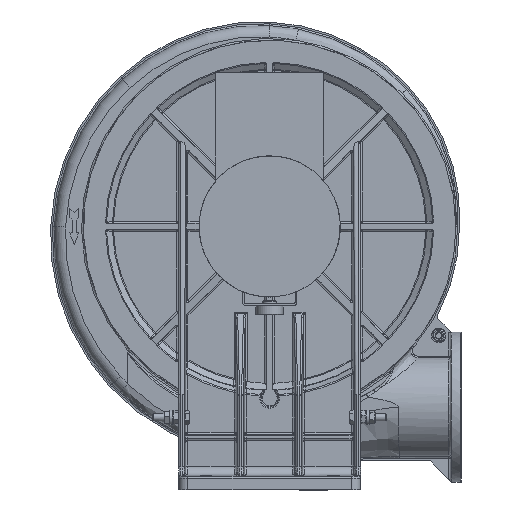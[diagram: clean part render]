
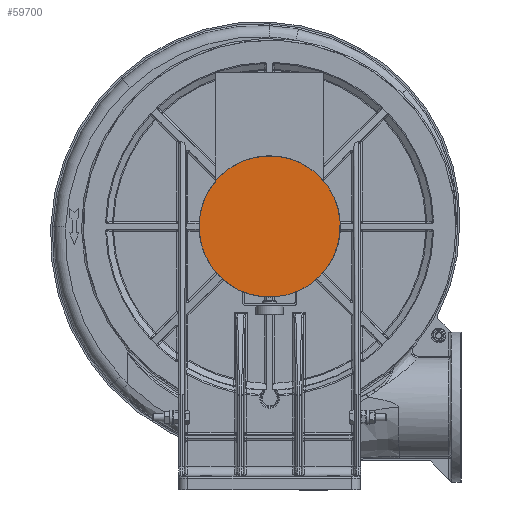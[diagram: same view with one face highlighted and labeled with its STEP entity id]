
A CAD part, left-side view. The second image highlights one B-rep face of the part: STEP entity #59700.
In plain terms, the highlighted planar face has unit normal (-1, 0, 0).
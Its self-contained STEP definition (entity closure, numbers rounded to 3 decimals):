
#1454=PLANE('',#62529);
#3147=CIRCLE('',#61567,77.7);
#8477=FACE_OUTER_BOUND('',#12017,.T.);
#12017=EDGE_LOOP('',(#49388));
#27566=VERTEX_POINT('',#92993);
#33516=EDGE_CURVE('',#27566,#27566,#3147,.T.);
#49388=ORIENTED_EDGE('',*,*,#33516,.T.);
#59700=ADVANCED_FACE('',(#8477),#1454,.T.);
#61567=AXIS2_PLACEMENT_3D('',#92994,#66109,#66110);
#62529=AXIS2_PLACEMENT_3D('',#102895,#70735,#70736);
#66109=DIRECTION('center_axis',(-1.,0.,0.));
#66110=DIRECTION('ref_axis',(0.,-0.997,0.073));
#70735=DIRECTION('center_axis',(-1.,0.,0.));
#70736=DIRECTION('ref_axis',(0.,0.,1.));
#92993=CARTESIAN_POINT('',(-259.6,77.49,284.289));
#92994=CARTESIAN_POINT('Origin',(-259.6,0.,
290.));
#102895=CARTESIAN_POINT('Origin',(-259.6,0.,
290.));
